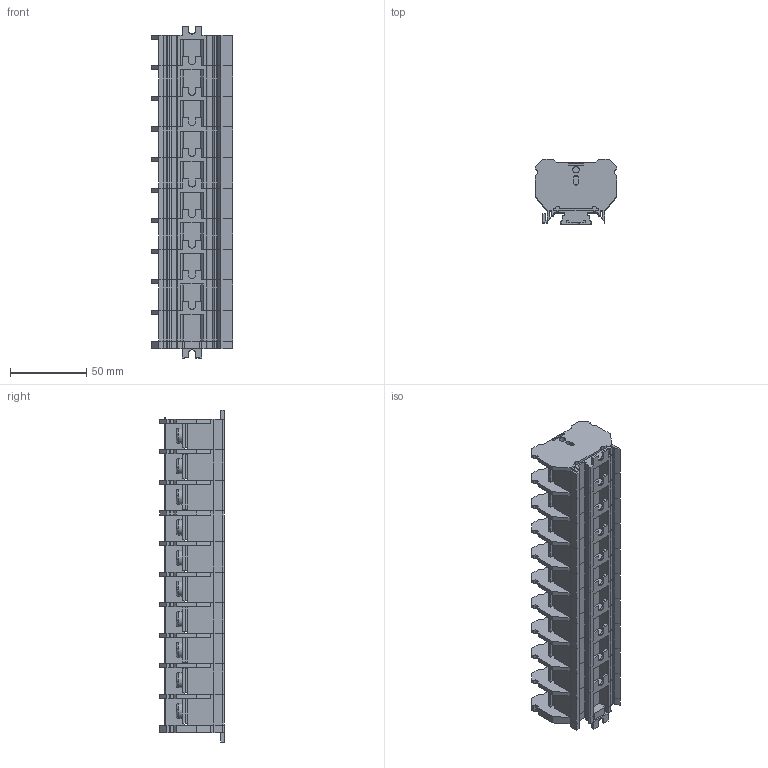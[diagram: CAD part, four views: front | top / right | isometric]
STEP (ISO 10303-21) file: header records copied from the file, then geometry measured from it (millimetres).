
FILE_DESCRIPTION (( 'STEP AP203' ), '1' );
FILE_NAME ('tk-0100 孰屐祉 蝈痨桧嚯 TK-0100 漕 25 祆2 100A.STEP', '2017-02-10T10:39:43', ( 'kuryshev' ), ( '' ), 'SwSTEP 2.0', 'SolidWorks 2010', '' );
FILE_SCHEMA (( 'CONFIG_CONTROL_DESIGN' ));
Length unit declared in the file: millimetre
Products named in the file (1): tk-0100 孰屐祉 蝈痨桧嚯 TK-0100 漕 25 祆2 100A
Bounding box: 53 x 42.3 x 217.1 mm (x, y, z)
Volume: 160258.9 mm3; surface area: 157699.1 mm2
Topology: 63 solids, 63 shells, 2400 faces, 6553 edges, 4352 vertices
Faces by surface type: plane 1961, cylinder 399, torus 40
Entity records: 76248 total; most frequent: CARTESIAN_POINT 15026, ORIENTED_EDGE 13106, DIRECTION 11993, EDGE_CURVE 6553, LINE 5355, VECTOR 5355, VERTEX_POINT 4352, AXIS2_PLACEMENT_3D 3319
